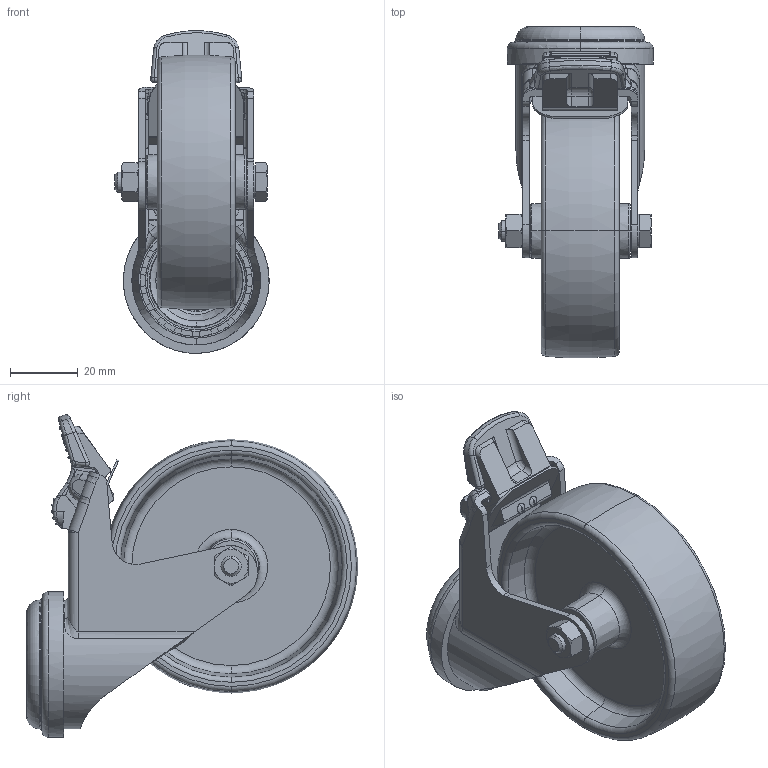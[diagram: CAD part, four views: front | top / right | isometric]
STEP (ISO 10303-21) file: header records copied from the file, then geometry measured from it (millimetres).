
FILE_DESCRIPTION (( 'STEP AP214' ), '1' );
FILE_NAME ('LRXA-PO_76G-FI_754998-214.step', '2013-03-30T16:25:24', ( 'Matthias Senn' ), ( 'Blickle Räder+Rollen' ), 'SwSTEP 2.0', 'SolidWorks 2010', '' );
FILE_SCHEMA (( 'AUTOMOTIVE_DESIGN' ));
Length unit declared in the file: millimetre
Products named in the file (5): GH-LRXA_075-FI_G15; AM_LPA_06x34_D8; PO_G15_PO_76_8G_299982; PO-G-R_G15_PO_76_8G_299982; LRXA-PO_76G-FI_754998-214
Assembly tree (4 placements, depth 3):
  LRXA-PO_76G-FI_754998-214
    AM_LPA_06x34_D8
    GH-LRXA_075-FI_G15
    PO_G15_PO_76_8G_299982
      PO-G-R_G15_PO_76_8G_299982
Bounding box: 45.5 x 97.94 x 95.22 mm (x, y, z)
Volume: 79497.1 mm3; surface area: 39459.6 mm2
Topology: 3 solids, 3 shells, 1362 faces, 3608 edges, 2321 vertices
Faces by surface type: plane 622, bspline 349, cylinder 231, cone 69, torus 66, sphere 25
Entity records: 91165 total; most frequent: CARTESIAN_POINT 46117, ORIENTED_EDGE 7176, DIRECTION 4560, EDGE_CURVE 3588, VERTEX_POINT 2315, LINE 1816, VECTOR 1816, EDGE_LOOP 1451
